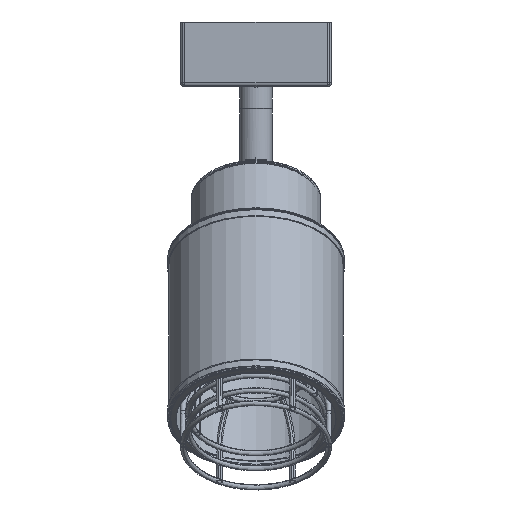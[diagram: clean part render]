
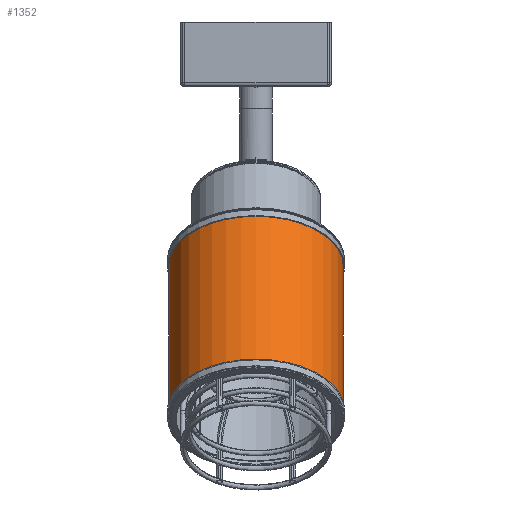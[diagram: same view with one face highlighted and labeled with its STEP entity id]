
A CAD part, left-side view. The second image highlights one B-rep face of the part: STEP entity #1352.
In plain terms, the highlighted cylindrical face has radius 40.3 mm (diameter 80.6 mm), a partial arc.
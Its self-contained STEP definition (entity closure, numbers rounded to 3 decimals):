
#1352=ADVANCED_FACE('',(#2130),#1691,.T.);
#1691=CYLINDRICAL_SURFACE('',#9538,40.3);
#2130=FACE_OUTER_BOUND('',#2772,.T.);
#2772=EDGE_LOOP('',(#5263,#5264,#5265,#5266));
#3183=LINE('',#20756,#3501);
#3184=LINE('',#20761,#3502);
#3501=VECTOR('',#11685,1.);
#3502=VECTOR('',#11688,1.);
#5263=ORIENTED_EDGE('',*,*,#7626,.T.);
#5264=ORIENTED_EDGE('',*,*,#7624,.T.);
#5265=ORIENTED_EDGE('',*,*,#7627,.F.);
#5266=ORIENTED_EDGE('',*,*,#7622,.F.);
#6571=VERTEX_POINT('',#20757);
#6572=VERTEX_POINT('',#20758);
#6573=VERTEX_POINT('',#20760);
#6574=VERTEX_POINT('',#20762);
#7622=EDGE_CURVE('',#6571,#6572,#3183,.T.);
#7624=EDGE_CURVE('',#6574,#6573,#3184,.T.);
#7626=EDGE_CURVE('',#6571,#6574,#8521,.T.);
#7627=EDGE_CURVE('',#6572,#6573,#8522,.T.);
#8521=CIRCLE('',#9536,40.3);
#8522=CIRCLE('',#9537,40.3);
#9536=AXIS2_PLACEMENT_3D('',#20765,#11693,#11694);
#9537=AXIS2_PLACEMENT_3D('',#20766,#11695,#11696);
#9538=AXIS2_PLACEMENT_3D('',#20767,#11697,#11698);
#11685=DIRECTION('',(-0.577,0.,-0.817));
#11688=DIRECTION('',(-0.577,0.,-0.817));
#11693=DIRECTION('',(-0.577,0.,-0.817));
#11694=DIRECTION('',(-0.817,0.,0.577));
#11695=DIRECTION('',(-0.577,0.,-0.817));
#11696=DIRECTION('',(-0.817,0.,0.577));
#11697=DIRECTION('',(-0.577,0.,-0.817));
#11698=DIRECTION('',(-0.817,0.,0.577));
#20756=CARTESIAN_POINT('',(-250.996,-40.3,-76.328));
#20757=CARTESIAN_POINT('',(-225.045,-40.3,-39.564));
#20758=CARTESIAN_POINT('',(-276.947,-40.3,-113.091));
#20760=CARTESIAN_POINT('',(-276.947,40.3,-113.091));
#20761=CARTESIAN_POINT('',(-250.996,40.3,-76.328));
#20762=CARTESIAN_POINT('',(-225.045,40.3,-39.564));
#20765=CARTESIAN_POINT('',(-225.045,0.,-39.564));
#20766=CARTESIAN_POINT('',(-276.947,0.,-113.091));
#20767=CARTESIAN_POINT('',(-250.996,0.,-76.328));
